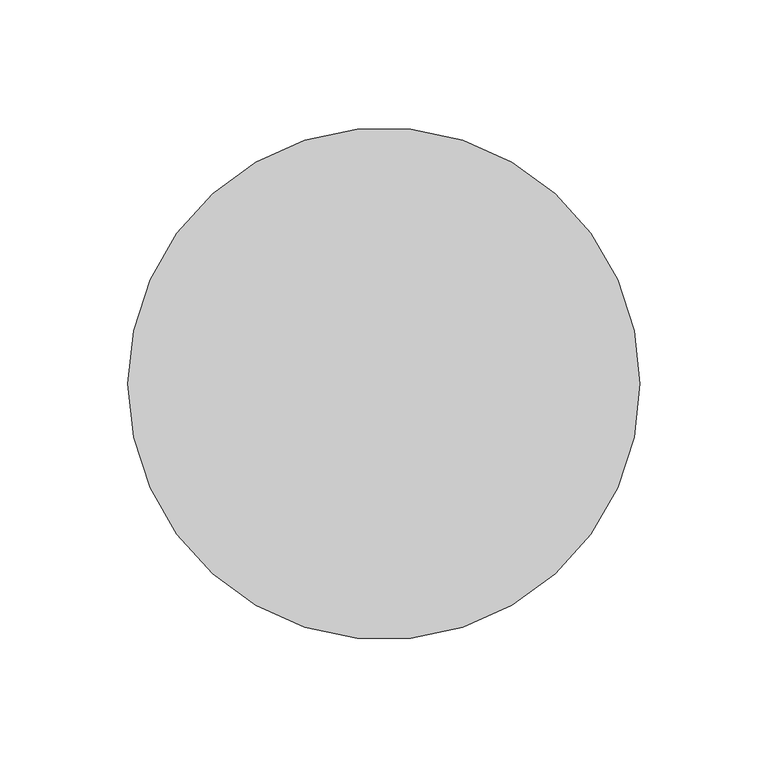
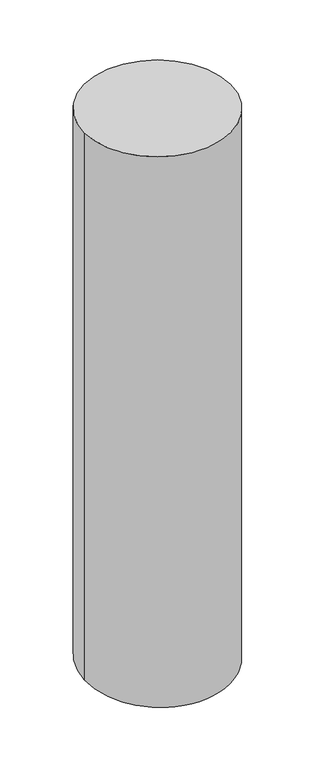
"""IFC4 building model written with IfcOpenShell, lengths in millimetres: member geometry, 矩形竖梃 : 圆瓦."""

from ifc_helpers import new_model, si_unit, frame, origin, origin_with_axes, place, context, project, spatial, circle_curve, ellipse_curve, source, transform, mapped, element, save
from ifc_brep_helpers import plane_surface, cylinder_surface, advanced_brep


def member_c5fdb4bd(model_context):
    return source(origin(), model_context, "Body", "AdvancedBrep", [
        advanced_brep(
        [(100.0, 0.0, 0.0), (-100.0, 0.0, 0.0), (100.0, 0.0, -790.1124317), (-100.0, 0.0, -790.1124317)],
        [
            (0, 1, circle_curve(origin_with_axes(), 100.0)),
            (1, 0, circle_curve(origin_with_axes(), 100.0)),
            (0, 2),
            (2, 3, ellipse_curve(frame((0.0, 0.0, -790.1124317), z_axis=(0.0, -0.06182099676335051, 0.9980872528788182), x_axis=(0.0, 0.9980872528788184, 0.061820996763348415)), 100.1916413, 100.0)),
            (3, 1),
            (3, 2, ellipse_curve(frame((0.0, 0.0, -790.1124317), z_axis=(0.0, -0.06182099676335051, 0.9980872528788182), x_axis=(0.0, 0.9980872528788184, 0.061820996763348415)), 100.1916413, 100.0)),
        ],
        [
            plane_surface(frame((0.0, -100.0, 0.0), z_axis=(0.0, 0.0, 1.0), x_axis=(-1.0, 0.0, 0.0))),
            cylinder_surface(origin_with_axes(), 100.0),
            plane_surface(frame((-304.8, 0.0, -790.1124317), z_axis=(0.0, 0.06182099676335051, -0.9980872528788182), x_axis=(0.0, 0.9980872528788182, 0.06182099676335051))),
        ],
        [
            (0, [[1, 2]]),
            (1, [[-1, 3, 4, 5]]),
            (1, [[-2, -5, 6, -3]]),
            (2, [[-6, -4]]),
        ],
    ),
    ])


if __name__ == "__main__":
    model = new_model("IFC4")
    model_context = context("Model", 3, world=origin())
    ifc_project = project(units=[si_unit("LENGTHUNIT", "METRE", prefix="MILLI")], contexts=[model_context])
    site = spatial("IfcSite", under=ifc_project)
    building = spatial("IfcBuilding", under=site)
    placement = place(None, origin())
    member_shape = member_c5fdb4bd(model_context)
    element("IfcMember", 1, ObjectType="矩形竖梃 : 圆瓦", at=placement, inside=building, context=model_context, shape_type="MappedRepresentation", body=[
        mapped(member_shape, transform((0.0, 0.0, 0.0), x_axis=(1.0, 0.0, 0.0), y_axis=(0.0, 1.0, 0.0), z_axis=(0.0, 0.0, 1.0))),
    ])
    save(model, "model.ifc")
